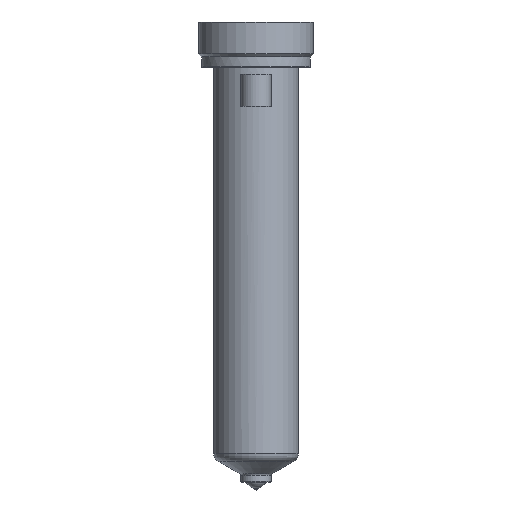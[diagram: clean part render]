
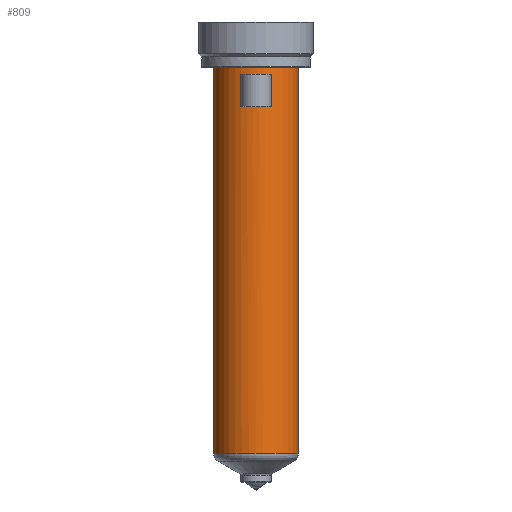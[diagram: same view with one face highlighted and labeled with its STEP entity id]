
A CAD part, top view. The second image highlights one B-rep face of the part: STEP entity #809.
In plain terms, the highlighted cylindrical face has radius 14 mm (diameter 28 mm), a partial arc.
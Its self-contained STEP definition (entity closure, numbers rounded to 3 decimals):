
#195=DIRECTION('',(0.,-1.,0.));
#196=VECTOR('',#195,127.893);
#197=CARTESIAN_POINT('',(14.,0.,0.));
#198=LINE('',#197,#196);
#199=CARTESIAN_POINT('',(0.,-127.893,0.));
#200=DIRECTION('',(0.,1.,0.));
#201=DIRECTION('',(-1.,0.,0.));
#202=AXIS2_PLACEMENT_3D('',#199,#200,#201);
#204=DIRECTION('',(0.,1.,0.));
#205=VECTOR('',#204,127.893);
#206=CARTESIAN_POINT('',(-14.,-127.893,0.));
#207=LINE('',#206,#205);
#208=CARTESIAN_POINT('',(0.,0.,0.));
#209=DIRECTION('',(0.,1.,0.));
#210=DIRECTION('',(-1.,0.,0.));
#211=AXIS2_PLACEMENT_3D('',#208,#209,#210);
#375=DIRECTION('',(0.,-1.,0.));
#376=VECTOR('',#375,10.5);
#377=CARTESIAN_POINT('',(-5.,-2.5,13.077));
#378=LINE('',#377,#376);
#383=CARTESIAN_POINT('',(0.,-13.,0.));
#384=DIRECTION('',(0.,1.,0.));
#385=DIRECTION('',(-0.357,0.,0.934));
#386=AXIS2_PLACEMENT_3D('',#383,#384,#385);
#418=CARTESIAN_POINT('',(0.,-2.5,0.));
#419=DIRECTION('',(0.,-1.,0.));
#420=DIRECTION('',(0.357,0.,0.934));
#421=AXIS2_PLACEMENT_3D('',#418,#419,#420);
#423=DIRECTION('',(0.,-1.,0.));
#424=VECTOR('',#423,10.5);
#425=CARTESIAN_POINT('',(5.,-2.5,13.077));
#426=LINE('',#425,#424);
#484=CARTESIAN_POINT('',(-14.,0.,0.));
#485=CARTESIAN_POINT('',(14.,0.,0.));
#486=VERTEX_POINT('',#484);
#487=VERTEX_POINT('',#485);
#496=CARTESIAN_POINT('',(5.,-2.5,13.077));
#497=VERTEX_POINT('',#496);
#498=CARTESIAN_POINT('',(-5.,-2.5,13.077));
#499=VERTEX_POINT('',#498);
#536=CARTESIAN_POINT('',(14.,-127.893,0.));
#537=VERTEX_POINT('',#536);
#546=CARTESIAN_POINT('',(-14.,-127.893,0.));
#547=VERTEX_POINT('',#546);
#568=CARTESIAN_POINT('',(-5.,-13.,13.077));
#569=CARTESIAN_POINT('',(5.,-13.,13.077));
#570=VERTEX_POINT('',#568);
#571=VERTEX_POINT('',#569);
#787=CARTESIAN_POINT('',(0.,16.4,0.));
#788=DIRECTION('',(0.,-1.,0.));
#789=DIRECTION('',(-1.,0.,0.));
#790=AXIS2_PLACEMENT_3D('',#787,#788,#789);
#791=CYLINDRICAL_SURFACE('',#790,14.);
#792=ORIENTED_EDGE('',*,*,#781,.T.);
#794=ORIENTED_EDGE('',*,*,#793,.F.);
#795=ORIENTED_EDGE('',*,*,#777,.T.);
#796=ORIENTED_EDGE('',*,*,#767,.T.);
#797=EDGE_LOOP('',(#792,#794,#795,#796));
#798=FACE_OUTER_BOUND('',#797,.F.);
#800=ORIENTED_EDGE('',*,*,#799,.T.);
#802=ORIENTED_EDGE('',*,*,#801,.T.);
#804=ORIENTED_EDGE('',*,*,#803,.F.);
#806=ORIENTED_EDGE('',*,*,#805,.T.);
#807=EDGE_LOOP('',(#800,#802,#804,#806));
#808=FACE_BOUND('',#807,.F.);
#809=ADVANCED_FACE('',(#798,#808),#791,.T.);
#203=CIRCLE('',#202,14.);
#212=CIRCLE('',#211,14.);
#387=CIRCLE('',#386,14.);
#422=CIRCLE('',#421,14.);
#767=EDGE_CURVE('',#486,#487,#212,.T.);
#777=EDGE_CURVE('',#547,#486,#207,.T.);
#781=EDGE_CURVE('',#487,#537,#198,.T.);
#793=EDGE_CURVE('',#547,#537,#203,.T.);
#799=EDGE_CURVE('',#499,#570,#378,.T.);
#801=EDGE_CURVE('',#570,#571,#387,.T.);
#803=EDGE_CURVE('',#497,#571,#426,.T.);
#805=EDGE_CURVE('',#497,#499,#422,.T.);
